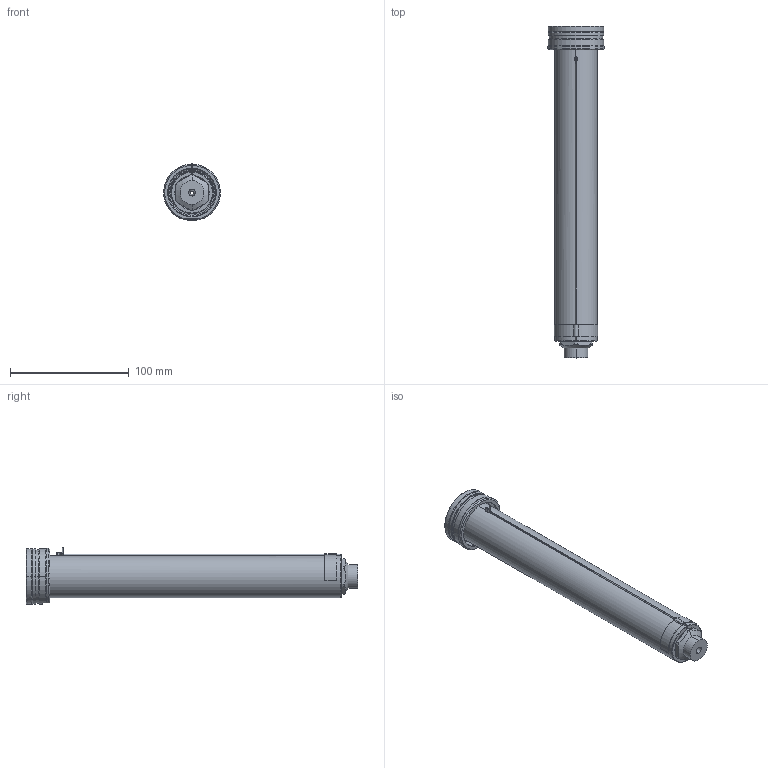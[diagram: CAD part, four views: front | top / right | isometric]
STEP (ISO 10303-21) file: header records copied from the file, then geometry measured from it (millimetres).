
FILE_DESCRIPTION((''),'2;1');
FILE_NAME('EO16_SG_SG_260_SW','2024-02-19T12:33:53',('sundharh'),(''),'CREO PARAMETRIC BY PTC INC, 2023154','CREO PARAMETRIC BY PTC INC, 2023154','');
FILE_SCHEMA(('CONFIG_CONTROL_DESIGN'));
Length unit declared in the file: millimetre
Products named in the file (1): EO16_SG_SG_260_SW
Bounding box: 47.97 x 280 x 48 mm (x, y, z)
Volume: 227600.3 mm3; surface area: 52997.6 mm2
Topology: 1 solids, 1 shells, 164 faces, 410 edges, 252 vertices
Faces by surface type: cylinder 64, plane 45, cone 31, torus 14, bspline 7, sphere 3
Entity records: 5719 total; most frequent: CARTESIAN_POINT 1728, DIRECTION 884, ORIENTED_EDGE 804, EDGE_CURVE 402, AXIS2_PLACEMENT_3D 365, VERTEX_POINT 252, CIRCLE 208, EDGE_LOOP 180
